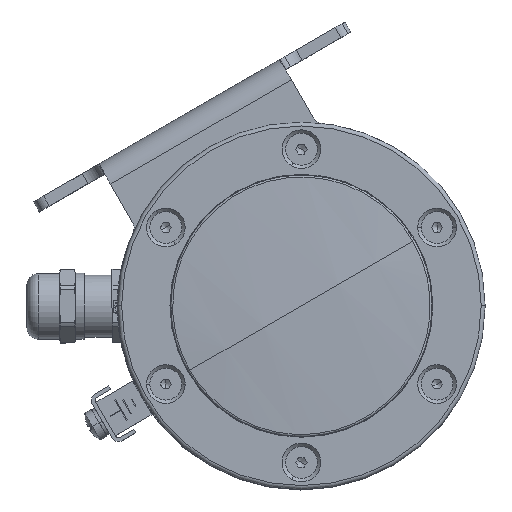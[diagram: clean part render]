
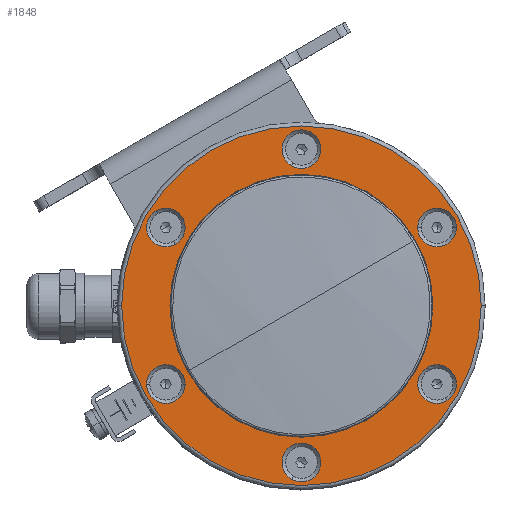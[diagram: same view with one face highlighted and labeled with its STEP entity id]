
A CAD part, top view. The second image highlights one B-rep face of the part: STEP entity #1848.
In plain terms, the highlighted planar face has unit normal (0, 0, 1).
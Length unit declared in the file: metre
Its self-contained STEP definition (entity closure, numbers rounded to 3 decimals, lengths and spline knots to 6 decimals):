
#1848=ADVANCED_FACE('0:17564',(#4226,#4227,#4228,#4229,#4230,#4231,#4232,#4233),#4234,.T.);
#4226=FACE_OUTER_BOUND('',#13008,.T.);
#4227=FACE_BOUND('',#13009,.T.);
#4228=FACE_BOUND('',#13010,.T.);
#4229=FACE_BOUND('',#13011,.T.);
#4230=FACE_BOUND('',#13012,.T.);
#4231=FACE_BOUND('',#13013,.T.);
#4232=FACE_BOUND('',#13014,.T.);
#4233=FACE_BOUND('',#13015,.T.);
#4234=PLANE('',#13016);
#13008=EDGE_LOOP('',(#22223,#22224,#22225));
#13009=EDGE_LOOP('',(#22226,#22227));
#13010=EDGE_LOOP('',(#22228,#22229));
#13011=EDGE_LOOP('',(#22230,#22231));
#13012=EDGE_LOOP('',(#22232,#22233));
#13013=EDGE_LOOP('',(#22234,#22235));
#13014=EDGE_LOOP('',(#22236,#22237));
#13015=EDGE_LOOP('',(#22238,#22239));
#13016=AXIS2_PLACEMENT_3D('',#22240,#22241,#22242);
#22223=ORIENTED_EDGE('',*,*,#25557,.F.);
#22224=ORIENTED_EDGE('',*,*,#25556,.F.);
#22225=ORIENTED_EDGE('',*,*,#25522,.F.);
#22226=ORIENTED_EDGE('',*,*,#25529,.T.);
#22227=ORIENTED_EDGE('',*,*,#25552,.T.);
#22228=ORIENTED_EDGE('',*,*,#25545,.T.);
#22229=ORIENTED_EDGE('',*,*,#25548,.T.);
#22230=ORIENTED_EDGE('',*,*,#25541,.T.);
#22231=ORIENTED_EDGE('',*,*,#25549,.T.);
#22232=ORIENTED_EDGE('',*,*,#25537,.T.);
#22233=ORIENTED_EDGE('',*,*,#25550,.T.);
#22234=ORIENTED_EDGE('',*,*,#25533,.T.);
#22235=ORIENTED_EDGE('',*,*,#25551,.T.);
#22236=ORIENTED_EDGE('',*,*,#25525,.T.);
#22237=ORIENTED_EDGE('',*,*,#25553,.T.);
#22238=ORIENTED_EDGE('',*,*,#25568,.F.);
#22239=ORIENTED_EDGE('',*,*,#25487,.F.);
#22240=CARTESIAN_POINT('',(0.,0.,0.0225));
#22241=DIRECTION('',(0.,0.,1.0));
#22242=DIRECTION('',(1.0,0.0,0.));
#25487=EDGE_CURVE('0:17636',#30216,#30218,#30219,.F.);
#25522=EDGE_CURVE('0:17606',#30285,#30287,#30288,.T.);
#25525=EDGE_CURVE('0:17597',#30292,#30290,#30293,.T.);
#25529=EDGE_CURVE('0:17591',#30298,#30296,#30299,.T.);
#25533=EDGE_CURVE('0:17585',#30304,#30302,#30305,.T.);
#25537=EDGE_CURVE('0:17579',#30310,#30308,#30311,.T.);
#25541=EDGE_CURVE('0:17573',#30316,#30314,#30317,.T.);
#25545=EDGE_CURVE('0:17567',#30322,#30320,#30323,.T.);
#25548=EDGE_CURVE('0:17567',#30320,#30322,#30326,.T.);
#25549=EDGE_CURVE('0:17573',#30314,#30316,#30327,.T.);
#25550=EDGE_CURVE('0:17579',#30308,#30310,#30328,.T.);
#25551=EDGE_CURVE('0:17585',#30302,#30304,#30329,.T.);
#25552=EDGE_CURVE('0:17591',#30296,#30298,#30330,.T.);
#25553=EDGE_CURVE('0:17597',#30290,#30292,#30331,.T.);
#25556=EDGE_CURVE('0:17606',#30287,#30335,#30336,.T.);
#25557=EDGE_CURVE('0:17606',#30335,#30285,#30337,.T.);
#25568=EDGE_CURVE('0:17636',#30218,#30216,#30348,.F.);
#30216=VERTEX_POINT('',#38321);
#30218=VERTEX_POINT('',#38324);
#30219=CIRCLE('',#38325,0.034);
#30285=VERTEX_POINT('',#38408);
#30287=VERTEX_POINT('',#38410);
#30288=CIRCLE('',#38411,0.0465);
#30290=VERTEX_POINT('',#38413);
#30292=VERTEX_POINT('',#38416);
#30293=CIRCLE('',#38417,0.005);
#30296=VERTEX_POINT('',#38421);
#30298=VERTEX_POINT('',#38424);
#30299=CIRCLE('',#38425,0.005);
#30302=VERTEX_POINT('',#38429);
#30304=VERTEX_POINT('',#38432);
#30305=CIRCLE('',#38433,0.005);
#30308=VERTEX_POINT('',#38437);
#30310=VERTEX_POINT('',#38440);
#30311=CIRCLE('',#38441,0.005);
#30314=VERTEX_POINT('',#38445);
#30316=VERTEX_POINT('',#38448);
#30317=CIRCLE('',#38449,0.005);
#30320=VERTEX_POINT('',#38453);
#30322=VERTEX_POINT('',#38456);
#30323=CIRCLE('',#38457,0.005);
#30326=CIRCLE('',#38461,0.005);
#30327=CIRCLE('',#38462,0.005);
#30328=CIRCLE('',#38463,0.005);
#30329=CIRCLE('',#38464,0.005);
#30330=CIRCLE('',#38465,0.005);
#30331=CIRCLE('',#38466,0.005);
#30335=VERTEX_POINT('',#38470);
#30336=CIRCLE('',#38471,0.0465);
#30337=CIRCLE('',#38472,0.0465);
#30348=CIRCLE('',#38483,0.034);
#38321=CARTESIAN_POINT('',(0.034,0.,0.0225));
#38324=CARTESIAN_POINT('',(-0.034,0.,0.0225));
#38325=AXIS2_PLACEMENT_3D('',#43790,#43791,#43792);
#38408=CARTESIAN_POINT('',(-0.0465,0.,0.0225));
#38410=CARTESIAN_POINT('',(0.0465,0.,0.0225));
#38411=AXIS2_PLACEMENT_3D('',#43861,#43862,#43863);
#38413=CARTESIAN_POINT('',(0.032574,-0.01592,0.0225));
#38416=CARTESIAN_POINT('',(0.037574,-0.02458,0.0225));
#38417=AXIS2_PLACEMENT_3D('',#43868,#43869,#43870);
#38421=CARTESIAN_POINT('',(0.0025,-0.03617,0.0225));
#38424=CARTESIAN_POINT('',(-0.0025,-0.04483,0.0225));
#38425=AXIS2_PLACEMENT_3D('',#43876,#43877,#43878);
#38429=CARTESIAN_POINT('',(-0.030074,-0.02025,0.0225));
#38432=CARTESIAN_POINT('',(-0.040074,-0.02025,0.0225));
#38433=AXIS2_PLACEMENT_3D('',#43884,#43885,#43886);
#38437=CARTESIAN_POINT('',(-0.032574,0.01592,0.0225));
#38440=CARTESIAN_POINT('',(-0.037574,0.02458,0.0225));
#38441=AXIS2_PLACEMENT_3D('',#43892,#43893,#43894);
#38445=CARTESIAN_POINT('',(-0.0025,0.03617,0.0225));
#38448=CARTESIAN_POINT('',(0.0025,0.04483,0.0225));
#38449=AXIS2_PLACEMENT_3D('',#43900,#43901,#43902);
#38453=CARTESIAN_POINT('',(0.030074,0.02025,0.0225));
#38456=CARTESIAN_POINT('',(0.040074,0.02025,0.0225));
#38457=AXIS2_PLACEMENT_3D('',#43908,#43909,#43910);
#38461=AXIS2_PLACEMENT_3D('',#43915,#43916,#43917);
#38462=AXIS2_PLACEMENT_3D('',#43918,#43919,#43920);
#38463=AXIS2_PLACEMENT_3D('',#43921,#43922,#43923);
#38464=AXIS2_PLACEMENT_3D('',#43924,#43925,#43926);
#38465=AXIS2_PLACEMENT_3D('',#43927,#43928,#43929);
#38466=AXIS2_PLACEMENT_3D('',#43930,#43931,#43932);
#38470=CARTESIAN_POINT('',(0.,-0.0465,0.0225));
#38471=AXIS2_PLACEMENT_3D('',#43939,#43940,#43941);
#38472=AXIS2_PLACEMENT_3D('',#43942,#43943,#43944);
#38483=AXIS2_PLACEMENT_3D('',#43975,#43976,#43977);
#43790=CARTESIAN_POINT('',(0.,0.,0.0225));
#43791=DIRECTION('',(0.,0.,-1.0));
#43792=DIRECTION('',(1.0,0.,0.));
#43861=CARTESIAN_POINT('',(0.,0.,0.0225));
#43862=DIRECTION('',(0.,0.,-1.0));
#43863=DIRECTION('',(0.,1.0,0.));
#43868=CARTESIAN_POINT('',(0.035074,-0.02025,0.0225));
#43869=DIRECTION('',(0.,0.,-1.0));
#43870=DIRECTION('',(-0.5,0.866,0.));
#43876=CARTESIAN_POINT('',(0.,-0.0405,0.0225));
#43877=DIRECTION('',(0.,0.,-1.0));
#43878=DIRECTION('',(0.5,0.866,0.));
#43884=CARTESIAN_POINT('',(-0.035074,-0.02025,0.0225));
#43885=DIRECTION('',(0.,0.,-1.0));
#43886=DIRECTION('',(1.0,0.,0.));
#43892=CARTESIAN_POINT('',(-0.035074,0.02025,0.0225));
#43893=DIRECTION('',(0.,0.,-1.0));
#43894=DIRECTION('',(0.5,-0.866,0.));
#43900=CARTESIAN_POINT('',(0.,0.0405,0.0225));
#43901=DIRECTION('',(0.,0.,-1.0));
#43902=DIRECTION('',(-0.5,-0.866,0.));
#43908=CARTESIAN_POINT('',(0.035074,0.02025,0.0225));
#43909=DIRECTION('',(0.,0.,-1.0));
#43910=DIRECTION('',(-1.0,0.,0.));
#43915=CARTESIAN_POINT('',(0.035074,0.02025,0.0225));
#43916=DIRECTION('',(0.,0.,-1.0));
#43917=DIRECTION('',(-1.0,0.,0.));
#43918=CARTESIAN_POINT('',(0.,0.0405,0.0225));
#43919=DIRECTION('',(0.,0.,-1.0));
#43920=DIRECTION('',(-0.5,-0.866,0.));
#43921=CARTESIAN_POINT('',(-0.035074,0.02025,0.0225));
#43922=DIRECTION('',(0.,0.,-1.0));
#43923=DIRECTION('',(0.5,-0.866,0.));
#43924=CARTESIAN_POINT('',(-0.035074,-0.02025,0.0225));
#43925=DIRECTION('',(0.,0.,-1.0));
#43926=DIRECTION('',(1.0,0.,0.));
#43927=CARTESIAN_POINT('',(0.,-0.0405,0.0225));
#43928=DIRECTION('',(0.,0.,-1.0));
#43929=DIRECTION('',(0.5,0.866,0.));
#43930=CARTESIAN_POINT('',(0.035074,-0.02025,0.0225));
#43931=DIRECTION('',(0.,0.,-1.0));
#43932=DIRECTION('',(-0.5,0.866,0.));
#43939=CARTESIAN_POINT('',(0.,0.,0.0225));
#43940=DIRECTION('',(0.,0.,-1.0));
#43941=DIRECTION('',(0.,1.0,0.));
#43942=CARTESIAN_POINT('',(0.,0.,0.0225));
#43943=DIRECTION('',(0.,0.,-1.0));
#43944=DIRECTION('',(0.,1.0,0.));
#43975=CARTESIAN_POINT('',(0.,0.,0.0225));
#43976=DIRECTION('',(0.,0.,-1.0));
#43977=DIRECTION('',(1.0,0.,0.));
